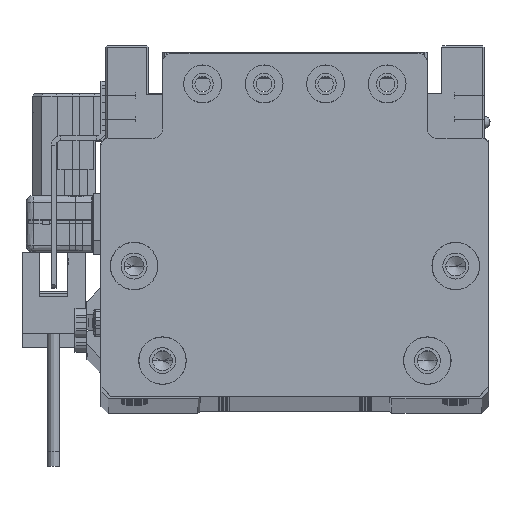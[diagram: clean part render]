
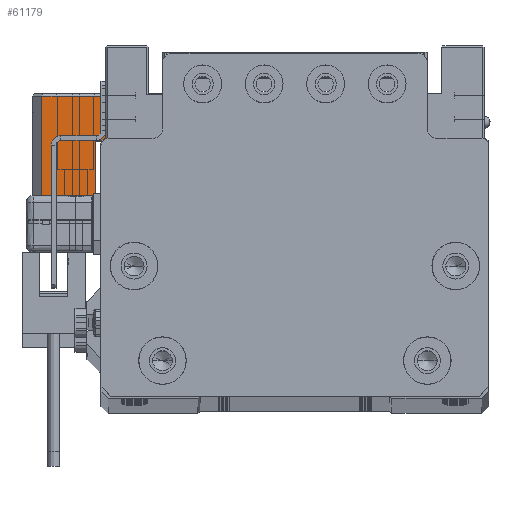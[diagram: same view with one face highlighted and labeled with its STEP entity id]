
A CAD part, top view. The second image highlights one B-rep face of the part: STEP entity #61179.
In plain terms, the highlighted planar face has unit normal (0, 0, 1) as drawn and (1, 0, 0) by its records, which use the part's own axes.
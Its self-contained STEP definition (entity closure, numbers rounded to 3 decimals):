
#1102 = CARTESIAN_POINT ( 'NONE',  ( 17., -10.75, -2. ) ) ;
#2136 = VECTOR ( 'NONE', #5023, 1000. ) ;
#2591 = LINE ( 'NONE', #56318, #60151 ) ;
#4167 = ORIENTED_EDGE ( 'NONE', *, *, #19756, .T. ) ;
#5023 = DIRECTION ( 'NONE',  ( 0., 0., 1. ) ) ;
#5098 = LINE ( 'NONE', #26651, #59460 ) ;
#7680 = DIRECTION ( 'NONE',  ( 1., 0., 0. ) ) ;
#12567 = AXIS2_PLACEMENT_3D ( 'NONE', #56094, #7680, #18628 ) ;
#12970 = FACE_OUTER_BOUND ( 'NONE', #33424, .T. ) ;
#15262 = DIRECTION ( 'NONE',  ( 0., 0., 1. ) ) ;
#15768 = ORIENTED_EDGE ( 'NONE', *, *, #31673, .T. ) ;
#16075 = VERTEX_POINT ( 'NONE', #27470 ) ;
#18628 = DIRECTION ( 'NONE',  ( 0., 0., -1. ) ) ;
#19061 = CARTESIAN_POINT ( 'NONE',  ( 17., 0.75, -13.3 ) ) ;
#19756 = EDGE_CURVE ( 'NONE', #60542, #26924, #5098, .T. ) ;
#20029 = LINE ( 'NONE', #46855, #33324 ) ;
#21111 = VERTEX_POINT ( 'NONE', #31220 ) ;
#26651 = CARTESIAN_POINT ( 'NONE',  ( 17., -10.75, -2. ) ) ;
#26875 = VECTOR ( 'NONE', #15262, 1000. ) ;
#26924 = VERTEX_POINT ( 'NONE', #1102 ) ;
#27470 = CARTESIAN_POINT ( 'NONE',  ( 17., -10.75, -13.3 ) ) ;
#27647 = CARTESIAN_POINT ( 'NONE',  ( 17., 10.25, -2. ) ) ;
#28262 = CARTESIAN_POINT ( 'NONE',  ( 17., 0.75, -15.5 ) ) ;
#31109 = VERTEX_POINT ( 'NONE', #28262 ) ;
#31220 = CARTESIAN_POINT ( 'NONE',  ( 17., 10.25, -15.5 ) ) ;
#31307 = DIRECTION ( 'NONE',  ( 0., 1., 0. ) ) ;
#31673 = EDGE_CURVE ( 'NONE', #31109, #21111, #20029, .T. ) ;
#32293 = DIRECTION ( 'NONE',  ( 0., -1., 0. ) ) ;
#33324 = VECTOR ( 'NONE', #31307, 1000. ) ;
#33424 = EDGE_LOOP ( 'NONE', ( #15768, #36367, #4167, #41874, #63853, #63061 ) ) ;
#34522 = PLANE ( 'NONE',  #12567 ) ;
#34860 = EDGE_CURVE ( 'NONE', #21111, #60542, #44231, .T. ) ;
#36367 = ORIENTED_EDGE ( 'NONE', *, *, #34860, .T. ) ;
#40835 = LINE ( 'NONE', #62752, #63643 ) ;
#41874 = ORIENTED_EDGE ( 'NONE', *, *, #68047, .F. ) ;
#42264 = EDGE_CURVE ( 'NONE', #31109, #59486, #57677, .T. ) ;
#44231 = LINE ( 'NONE', #65089, #2136 ) ;
#46855 = CARTESIAN_POINT ( 'NONE',  ( 17., -10.75, -15.5 ) ) ;
#51734 = EDGE_CURVE ( 'NONE', #59486, #16075, #2591, .T. ) ;
#52029 = CARTESIAN_POINT ( 'NONE',  ( 17., 0.75, -15.5 ) ) ;
#55959 = DIRECTION ( 'NONE',  ( 0., -1., 0. ) ) ;
#56094 = CARTESIAN_POINT ( 'NONE',  ( 17., -10.75, -15.5 ) ) ;
#56318 = CARTESIAN_POINT ( 'NONE',  ( 17., -10.75, -13.3 ) ) ;
#57677 = LINE ( 'NONE', #52029, #26875 ) ;
#59460 = VECTOR ( 'NONE', #32293, 1000. ) ;
#59486 = VERTEX_POINT ( 'NONE', #19061 ) ;
#60151 = VECTOR ( 'NONE', #55959, 1000. ) ;
#60542 = VERTEX_POINT ( 'NONE', #27647 ) ;
#61179 = ADVANCED_FACE ( 'NONE', ( #12970 ), #34522, .T. ) ;
#62402 = DIRECTION ( 'NONE',  ( 0., 0., 1. ) ) ;
#62752 = CARTESIAN_POINT ( 'NONE',  ( 17., -10.75, -15.5 ) ) ;
#63061 = ORIENTED_EDGE ( 'NONE', *, *, #42264, .F. ) ;
#63643 = VECTOR ( 'NONE', #62402, 1000. ) ;
#63853 = ORIENTED_EDGE ( 'NONE', *, *, #51734, .F. ) ;
#65089 = CARTESIAN_POINT ( 'NONE',  ( 17., 10.25, -15.5 ) ) ;
#68047 = EDGE_CURVE ( 'NONE', #16075, #26924, #40835, .T. ) ;
